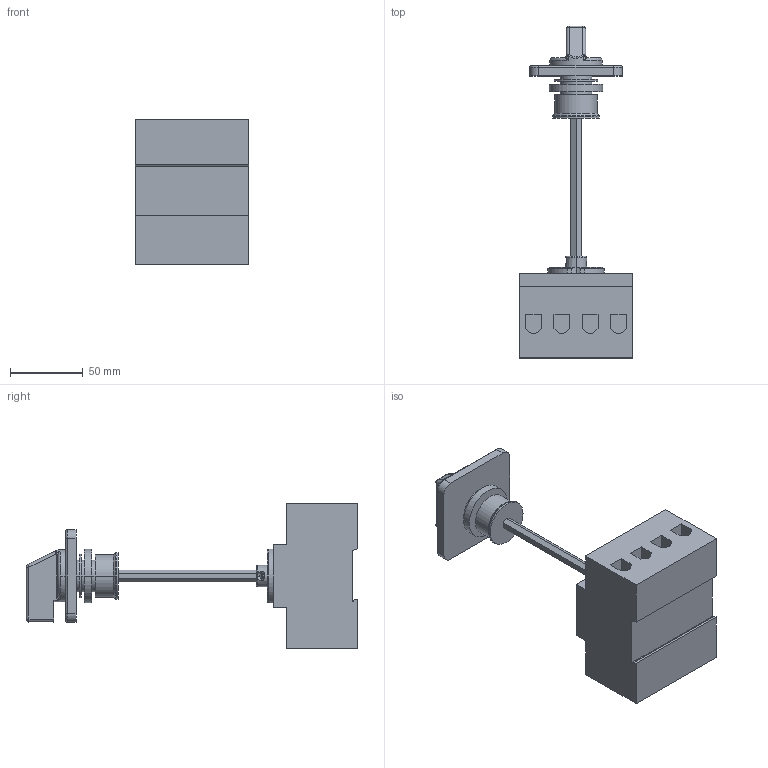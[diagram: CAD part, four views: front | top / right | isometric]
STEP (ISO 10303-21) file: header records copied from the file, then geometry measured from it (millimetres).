
FILE_DESCRIPTION (( 'STEP AP203' ), '1' );
FILE_NAME ('LTS85_100_125 VZVHN1 A3.STEP', '2014-03-20T10:31:53', ( '' ), ( '' ), 'SwSTEP 2.0', 'SolidWorks 2014', '' );
FILE_SCHEMA (( 'CONFIG_CONTROL_DESIGN' ));
Length unit declared in the file: millimetre
Products named in the file (5): LTS125 VZV A4 Schaltkörper; 8184; Achse TK-LT_100_300; TK2Z HN1; LTS85_100_125 VZVHN1 A3
Assembly tree (4 placements, depth 2):
  LTS85_100_125 VZVHN1 A3
    LTS125 VZV A4 Schaltkörper
    8184
    Achse TK-LT_100_300
    TK2Z HN1
Bounding box: 78 x 228.4 x 100 mm (x, y, z)
Volume: 441363.2 mm3; surface area: 73433.4 mm2
Topology: 4 solids, 4 shells, 282 faces, 701 edges, 440 vertices
Faces by surface type: plane 135, cylinder 83, cone 25, torus 17, bspline 16, sphere 6
Entity records: 9446 total; most frequent: CARTESIAN_POINT 2237, DIRECTION 1409, ORIENTED_EDGE 1386, EDGE_CURVE 693, AXIS2_PLACEMENT_3D 515, VERTEX_POINT 440, LINE 379, VECTOR 379
